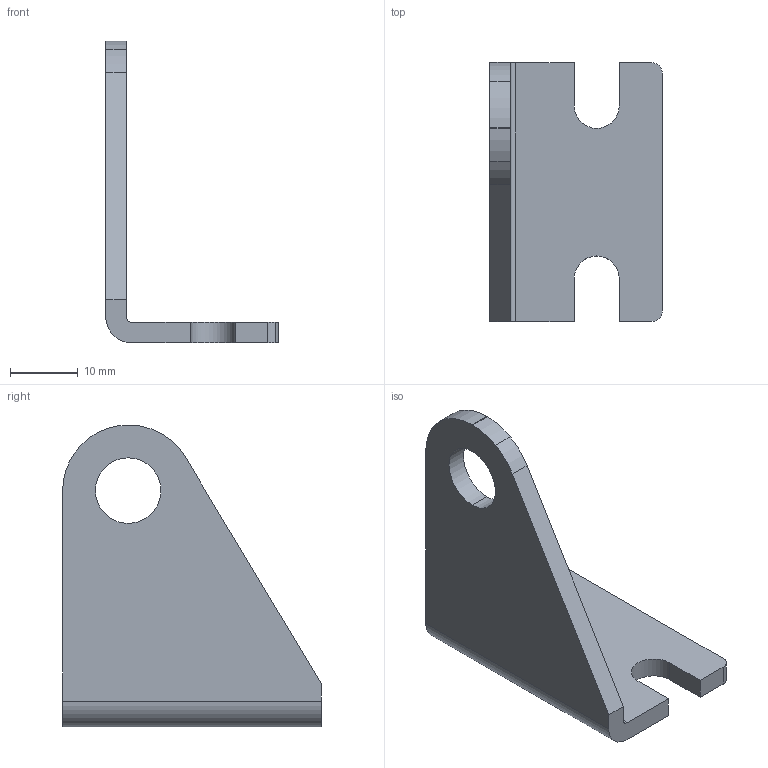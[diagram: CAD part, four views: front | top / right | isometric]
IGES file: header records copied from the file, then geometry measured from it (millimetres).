
Global section: file name: C:\Documents and Settings\Administrator\Desktop\Transfer Temp\pivotbracket1750right.igs; native system: AutoDesk Inventor R2.0 ; preprocessor: AutoDesk Inventor Iges Exporter R2.0; author: No Author specified; organization: No Organization specified; date: 20020124.180629; units: inch
Bounding box: 25.4 x 38.1 x 44.45 mm (x, y, z)
Surface area: 4466.5 mm2 (no closed solid volume)
Topology: 0 solids, 0 shells, 29 faces, 162 edges, 162 vertices
Faces by surface type: bspline 17, revolution 12
